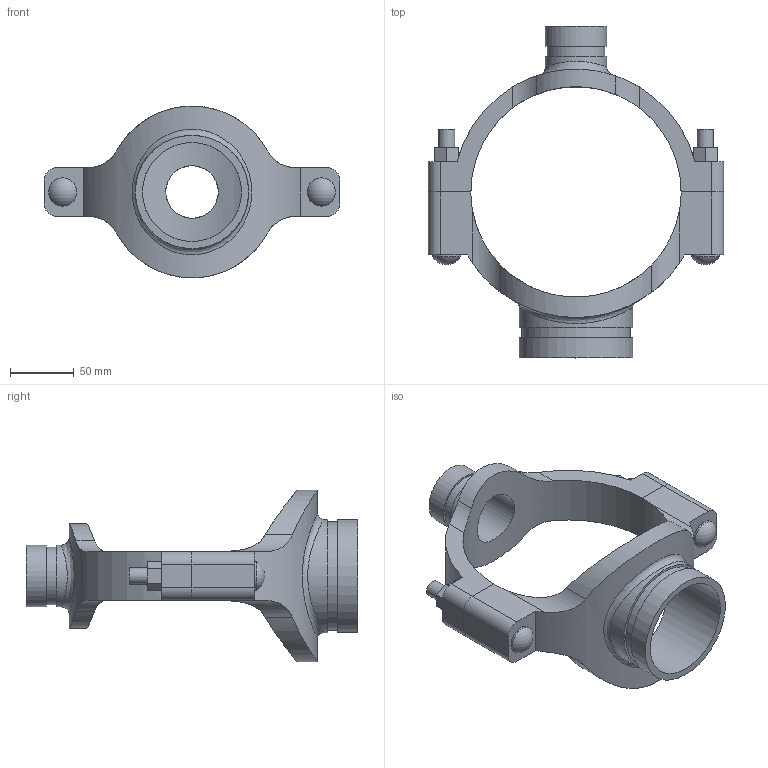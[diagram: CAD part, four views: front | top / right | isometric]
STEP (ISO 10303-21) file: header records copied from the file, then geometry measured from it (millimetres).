
FILE_DESCRIPTION(/* description */ ('VIC MECH-T BRANCH OUTLET CROSS STYLE 920N (GRVD)','CAx-IF Rec.Pracs.---Representation and Presentation of Product Manufacturing Information (PMI)---4.0---2014-10-13'),/* implementation_level */ '2;1');
FILE_NAME(/* name */ 'C:\Users\Vjadhav\AppData\Roaming\Autodesk\ApplicationPlugins\Back Up\Victaulic_IPS_Mechanical-Cross Outlet_Style 920N (OGS)\Victaulic_IPS_Mechanical-Cross Outlet_06.0 (165.1)x01.5x03.0 (150x40x80).stp',/* time_stamp */ '2020-08-06T19:45:15+05:00',/* author */ ('Vjadhav'),/* organization */ ('Victaulic'),/* preprocessor_version */ 'ST-DEVELOPER v17.2',/* originating_system */ 'Autodesk Inventor 2019',/* authorisation */ '');
FILE_SCHEMA (('AP242_MANAGED_MODEL_BASED_3D_ENGINEERING_MIM_LF { 1 0 10303 442 1 1 4 }'));
Length unit declared in the file: inch
Products named in the file (3): 920NG-06.0 (165.1)x01.5x03.0; 920NG-06.0 (165.1)x01.5x02.5; 920G-06.0 (165.1)x03.0
Assembly tree (2 placements, depth 2):
  920NG-06.0 (165.1)x01.5x03.0
    920NG-06.0 (165.1)x01.5x02.5
    920G-06.0 (165.1)x03.0
Bounding box: 231.9 x 260.6 x 134.87 mm (x, y, z)
Volume: 587269.7 mm3; surface area: 141689.1 mm2
Topology: 2 solids, 2 shells, 106 faces, 268 edges, 182 vertices
Faces by surface type: plane 54, cylinder 48, sphere 2, bspline 2
Full cylindrical faces by diameter (mm): 12.7 x4, 22.225 x2, 41.275 x1, 45.085 x1, 48.26 x2, 77.787 x1, 84.938 x1, 88.9 x2
Entity records: 4322 total; most frequent: CARTESIAN_POINT 1495, DIRECTION 542, ORIENTED_EDGE 536, EDGE_CURVE 268, AXIS2_PLACEMENT_3D 197, VERTEX_POINT 182, LINE 148, VECTOR 148
